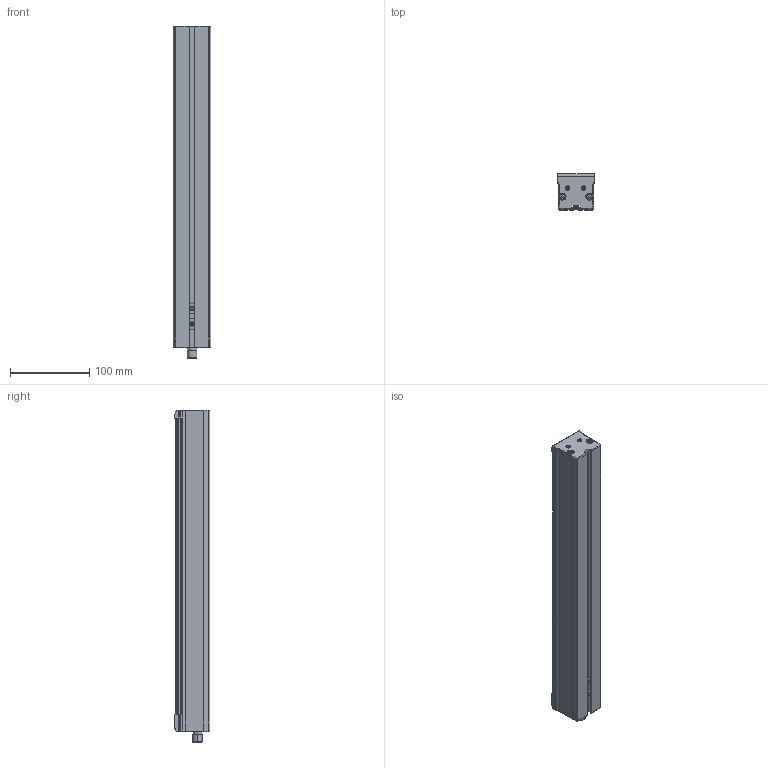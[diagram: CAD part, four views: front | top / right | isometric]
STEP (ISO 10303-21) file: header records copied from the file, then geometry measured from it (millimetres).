
FILE_DESCRIPTION (( 'STEP AP214' ), '1' );
FILE_NAME ('EBAR-EC-375-xxx-xx_CLIENT.STEP', '2026-06-04T10:46:58', ( '' ), ( '' ), 'SwSTEP 2.0', 'SolidWorks 2025', '' );
FILE_SCHEMA (( 'AUTOMOTIVE_DESIGN' ));
Length unit declared in the file: millimetre
Products named in the file (3): EBAR-EC-xxx-xxx-xx_CLIENT_375; 1-X2014-01-3-A; EBAR-EC-375-xxx-xx_CLIENT
Assembly tree (3 placements, depth 2):
  EBAR-EC-375-xxx-xx_CLIENT
    EBAR-EC-xxx-xxx-xx_CLIENT_375
    1-X2014-01-3-A  x2
Bounding box: 47.63 x 45 x 420.06 mm (x, y, z)
Volume: 724010.8 mm3; surface area: 90818.8 mm2
Topology: 3 solids, 3 shells, 731 faces, 1873 edges, 1204 vertices
Faces by surface type: plane 311, cylinder 207, bspline 131, torus 62, cone 16, sphere 4
Entity records: 26473 total; most frequent: CARTESIAN_POINT 9547, ORIENTED_EDGE 3600, DIRECTION 3083, EDGE_CURVE 1800, VERTEX_POINT 1163, AXIS2_PLACEMENT_3D 1065, VECTOR 953, LINE 953
